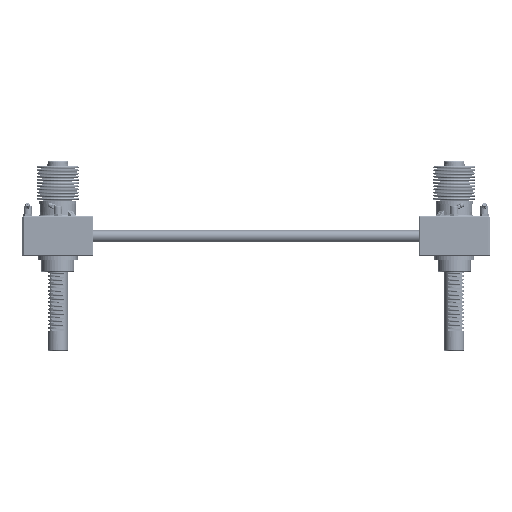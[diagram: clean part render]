
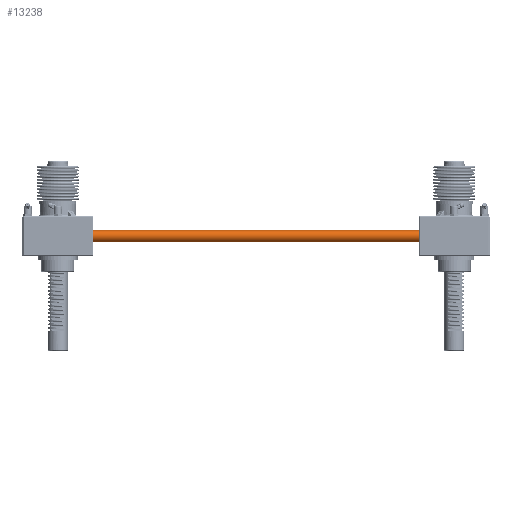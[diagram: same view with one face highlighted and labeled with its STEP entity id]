
A CAD part, front view. The second image highlights one B-rep face of the part: STEP entity #13238.
In plain terms, the highlighted cylindrical face has radius 7.5 mm (diameter 15 mm), a full revolution.
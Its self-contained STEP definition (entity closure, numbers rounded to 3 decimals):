
#13238=ADVANCED_FACE('',(#31278,#31279),#31280,.T.);
#31278=FACE_OUTER_BOUND('',#50613,.T.);
#31279=FACE_OUTER_BOUND('',#50614,.T.);
#31280=CYLINDRICAL_SURFACE('',#50615,7.5);
#50613=EDGE_LOOP('',(#124089));
#50614=EDGE_LOOP('',(#124090));
#50615=AXIS2_PLACEMENT_3D('',#124091,#124092,#124093);
#124089=ORIENTED_EDGE('',*,*,#147873,.T.);
#124090=ORIENTED_EDGE('',*,*,#147870,.T.);
#124091=CARTESIAN_POINT('',(0.0,0.0,532.0));
#124092=DIRECTION('',(0.0,0.0,-1.0));
#124093=DIRECTION('',(-1.0,0.0,0.0));
#147870=EDGE_CURVE('',#187550,#187550,#187551,.F.);
#147873=EDGE_CURVE('',#187556,#187556,#187557,.T.);
#187550=VERTEX_POINT('',#254446);
#187551=CIRCLE('',#254447,7.5);
#187556=VERTEX_POINT('',#254452);
#187557=CIRCLE('',#254453,7.5);
#254446=CARTESIAN_POINT('',(7.5,0.0,531.0));
#254447=AXIS2_PLACEMENT_3D('',#280694,#280695,#280696);
#254452=CARTESIAN_POINT('',(7.5,0.0,1.0));
#254453=AXIS2_PLACEMENT_3D('',#280703,#280704,#280705);
#280694=CARTESIAN_POINT('',(0.0,0.0,531.0));
#280695=DIRECTION('',(0.0,0.0,1.0));
#280696=DIRECTION('',(1.0,0.0,0.0));
#280703=CARTESIAN_POINT('',(0.0,0.0,1.0));
#280704=DIRECTION('',(0.0,0.0,1.0));
#280705=DIRECTION('',(1.0,0.0,0.0));
